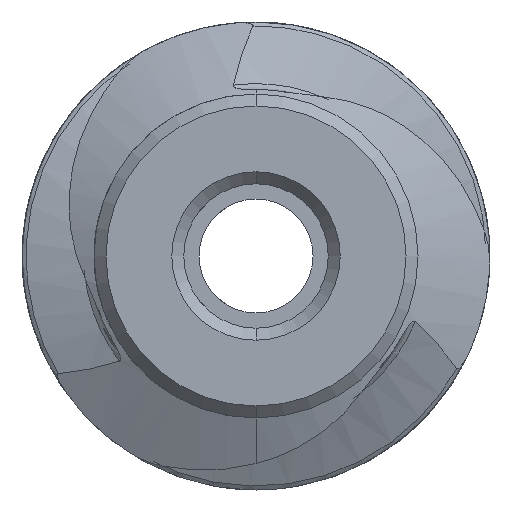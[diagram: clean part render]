
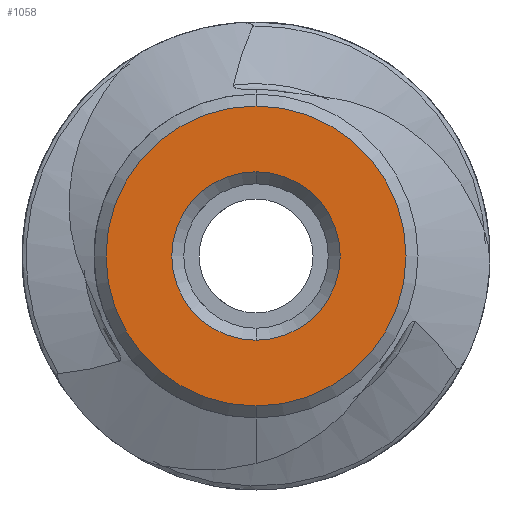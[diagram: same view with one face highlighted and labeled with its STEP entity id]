
A CAD part, left-side view. The second image highlights one B-rep face of the part: STEP entity #1058.
In plain terms, the highlighted planar face has unit normal (-1, 0, 0).
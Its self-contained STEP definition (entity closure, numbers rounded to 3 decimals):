
#15=PLANE('',#1158);
#49=FACE_BOUND('',#264,.T.);
#198=FACE_OUTER_BOUND('',#263,.T.);
#263=EDGE_LOOP('',(#896,#897));
#264=EDGE_LOOP('',(#898,#899));
#299=CIRCLE('',#1105,3.51);
#300=CIRCLE('',#1107,6.25);
#327=CIRCLE('',#1159,6.25);
#328=CIRCLE('',#1160,3.51);
#426=VERTEX_POINT('',#1509);
#427=VERTEX_POINT('',#1511);
#428=VERTEX_POINT('',#1515);
#429=VERTEX_POINT('',#1516);
#534=EDGE_CURVE('',#427,#426,#299,.T.);
#536=EDGE_CURVE('',#428,#429,#300,.T.);
#663=EDGE_CURVE('',#429,#428,#327,.T.);
#664=EDGE_CURVE('',#426,#427,#328,.T.);
#896=ORIENTED_EDGE('',*,*,#663,.T.);
#897=ORIENTED_EDGE('',*,*,#536,.T.);
#898=ORIENTED_EDGE('',*,*,#534,.T.);
#899=ORIENTED_EDGE('',*,*,#664,.T.);
#1058=ADVANCED_FACE('',(#198,#49),#15,.F.);
#1105=AXIS2_PLACEMENT_3D('',#1512,#1224,#1225);
#1107=AXIS2_PLACEMENT_3D('',#1517,#1229,#1230);
#1158=AXIS2_PLACEMENT_3D('',#8069,#1357,#1358);
#1159=AXIS2_PLACEMENT_3D('',#8070,#1359,#1360);
#1160=AXIS2_PLACEMENT_3D('',#8071,#1361,#1362);
#1224=DIRECTION('center_axis',(1.,0.,0.));
#1225=DIRECTION('ref_axis',(0.,0.,
-1.));
#1229=DIRECTION('center_axis',(-1.,0.,0.));
#1230=DIRECTION('ref_axis',(0.,0.,
-1.));
#1357=DIRECTION('center_axis',(1.,0.,0.));
#1358=DIRECTION('ref_axis',(0.,0.,-1.));
#1359=DIRECTION('center_axis',(-1.,0.,0.));
#1360=DIRECTION('ref_axis',(0.,0.,
-1.));
#1361=DIRECTION('center_axis',(1.,0.,0.));
#1362=DIRECTION('ref_axis',(0.,0.,
-1.));
#1509=CARTESIAN_POINT('',(60.726,-22.258,-438.032));
#1511=CARTESIAN_POINT('',(60.726,-22.258,-431.012));
#1512=CARTESIAN_POINT('Origin',(60.726,-22.258,-434.522));
#1515=CARTESIAN_POINT('',(60.726,-22.258,-428.272));
#1516=CARTESIAN_POINT('',(60.726,-22.258,-440.772));
#1517=CARTESIAN_POINT('Origin',(60.726,-22.258,-434.522));
#8069=CARTESIAN_POINT('Origin',(60.726,-22.258,-434.522));
#8070=CARTESIAN_POINT('Origin',(60.726,-22.258,-434.522));
#8071=CARTESIAN_POINT('Origin',(60.726,-22.258,-434.522));
